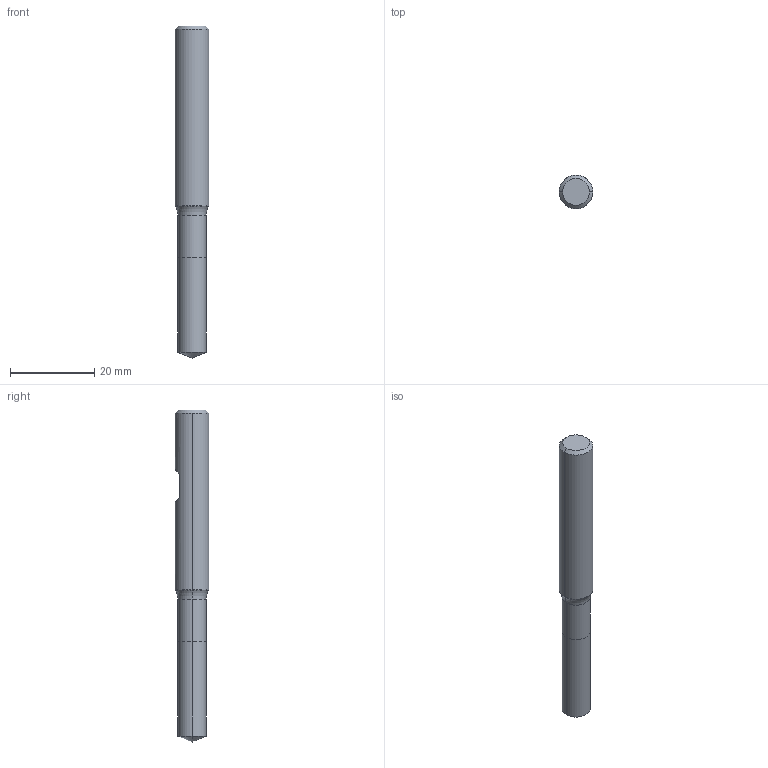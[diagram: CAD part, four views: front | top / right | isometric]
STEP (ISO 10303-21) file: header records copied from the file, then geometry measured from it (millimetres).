
FILE_DESCRIPTION (( 'STEP AP214' ), '1' );
FILE_NAME ('843.067.10_3D-model.step', '2022-02-24T03:06:39', ( '' ), ( '' ), 'SwSTEP 2.0', 'SolidWorks 2020', '' );
FILE_SCHEMA (( 'AUTOMOTIVE_DESIGN' ));
Length unit declared in the file: millimetre
Products named in the file (3): CUT-3D^Baugr42; NOCUT-3D^Baugr42; 843.067.10_3D-model
Assembly tree (2 placements, depth 2):
  843.067.10_3D-model
    CUT-3D^Baugr42
    NOCUT-3D^Baugr42
Bounding box: 8 x 8 x 79 mm (x, y, z)
Volume: 3371.3 mm3; surface area: 1960.5 mm2
Topology: 2 solids, 2 shells, 20 faces, 38 edges, 21 vertices
Faces by surface type: cone 6, cylinder 6, plane 6, torus 2
Entity records: 608 total; most frequent: DIRECTION 108, CARTESIAN_POINT 91, ORIENTED_EDGE 72, AXIS2_PLACEMENT_3D 46, EDGE_CURVE 36, EDGE_LOOP 21, VERTEX_POINT 21, FACE_OUTER_BOUND 20
